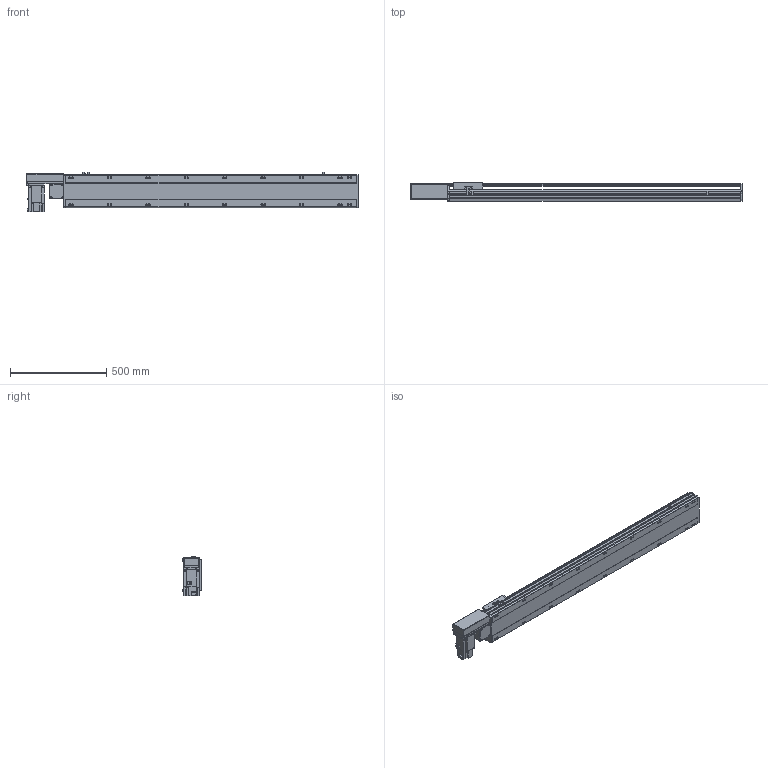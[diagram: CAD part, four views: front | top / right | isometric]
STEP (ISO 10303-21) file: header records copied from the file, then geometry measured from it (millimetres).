
FILE_DESCRIPTION( ( 'STEP AP214' ), '1' );
FILE_NAME( 'x:/temp/worker_4/temp/exporttempdir_2248_266_k0zzH/format_0/PBS170-P40-S1250-R-T75-C1-N(0).stp', '2022-06-07T07:30:23', ( 'License CC BY-ND 4.0' ), ( 'CADENAS' ), ' ', 'PARTsolutions', ' ' );
FILE_SCHEMA( ( 'AUTOMOTIVE_DESIGN { 1 0 10303 214 1 1 1 1 }' ) );
Length unit declared in the file: millimetre
Products named in the file (7): PBS170-P40-S1250-R-T75-C1-N(0); _PBS170-S1250()_body; _PBS170T-R_motors; _T75-p1; _PBS170_sliser; _PBS170_plant; _PBS170_sensor
Assembly tree (8 placements, depth 2):
  PBS170-P40-S1250-R-T75-C1-N(0)
    _PBS170-S1250()_body
    _PBS170T-R_motors
    _T75-p1
    _PBS170_sliser
    _PBS170_plant
    _PBS170_sensor  x3
Bounding box: 1728 x 97 x 205.3 mm (x, y, z)
Volume: 12769007.5 mm3; surface area: 1656160.5 mm2
Topology: 8 solids, 8 shells, 1098 faces, 2915 edges, 1900 vertices
Faces by surface type: plane 693, cylinder 347, cone 48, sphere 8, torus 2
Full cylindrical faces by diameter (mm): 3.242 x4, 4 x2, 4.4 x4, 4.5 x6, 4.917 x4, 6 x9, 6.647 x26, 7 x2, 7.5 x4, 8 x8, 8.5 x18, 10 x4, 10.5 x18, 11 x2, 30 x2, 40 x1, 70 x1
Entity records: 40382 total; most frequent: CARTESIAN_POINT 6389, DIRECTION 5370, ORIENTED_EDGE 5088, EDGE_CURVE 2544, AXIS2_PLACEMENT_3D 1867, VERTEX_POINT 1754, LINE 1636, VECTOR 1636
